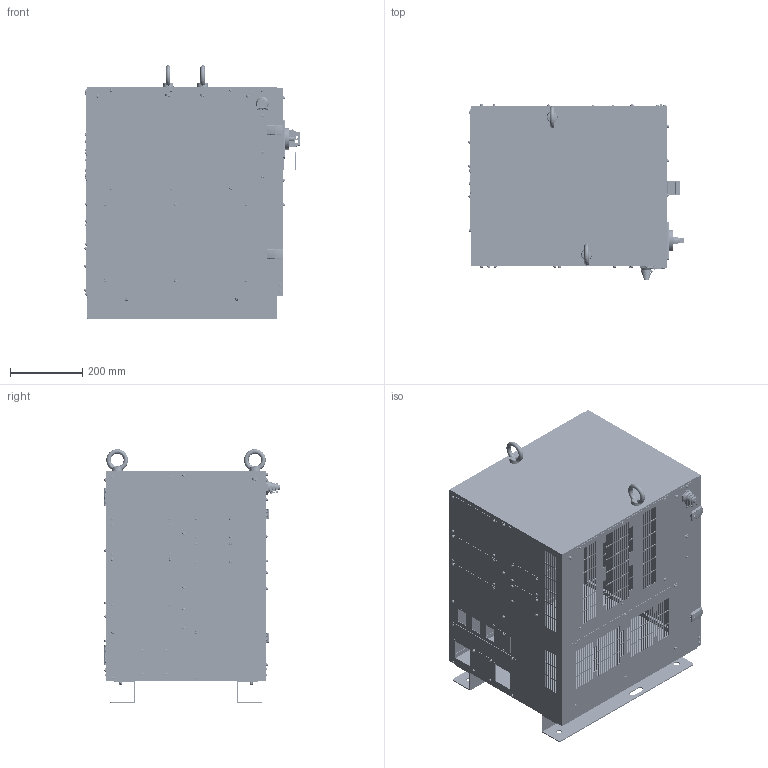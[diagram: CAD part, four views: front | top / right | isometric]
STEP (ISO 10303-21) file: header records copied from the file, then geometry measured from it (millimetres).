
FILE_DESCRIPTION(/* description */ (''),/* implementation_level */ '2;1');
FILE_NAME(/* name */ '\\semifile\請負業者殿サーバ\山中\製品_2018.08.07(外形用)\FD19-controller.stp',/* time_stamp */ '2019-08-26T11:09:31+09:00',/* author */ ('100494F'),/* organization */ (''),/* preprocessor_version */ 'ST-DEVELOPER v17',/* originating_system */ 'Autodesk Inventor 2018',/* authorisation */ '');
FILE_SCHEMA (('AUTOMOTIVE_DESIGN { 1 0 10303 214 3 1 1 }'));
Products named in the file (69): FD19-controller; 1; 1-1; 1_Botomside; 1_Leftside; 1_Rightside; 1_Backside; 1_Topside; 1_6_a; 1_6_a_1; M16-N; 2; 2_1; C-300-B-3-10-EMC; 4; 4_1; 5; 5_1; 6; 7; 8; 9; 10; 11; 12; 13; 15; L23400B15; NM6050001SC; 16; 17; 18; 19; 20; 21; 23; C-1083_ASM; SONE3D_1_ASM; C-1083_X_X_; C-1083_O_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
Assembly tree (188 placements, depth 5):
  FD19-controller
    1
      1-1
        1_Botomside
        1_Leftside
        1_Rightside
        1_Backside
        1_Topside
        1_6_a  x2
          1_6_a_1
          M16-N
      2
        2_1
        C-300-B-3-10-EMC
      4
        4_1
      5
        5_1
      6
      7
      8
      9
      10
      11
      12  x2
      13
      15  x2
        L23400B15
        NM6050001SC
      16
      17
      18
      19
      20  x7
      21
      23
      C-1083_ASM  x2
        SONE3D_1_ASM
          C-1083_X_X_
          C-1083_O_
          C-1083_J_O_
          C-1083_S_S_B_J_P
          C-1083_S_S_A_J_P
          C-1083-27
      C-1083-28  x2
      B-27-3_Q_WB  x2
      B-27-3_Q_WA  x2
      M4x8(P=4)  x83
      M3x6(P=4)  x8
      AS 1427 - M4 x 6(5) II  x8
      M8X15-ZM3C(P=3)  x4
        HXPP3-ST-M8-15-1_HXPP3-ST-M8-15
        HXPP3-ST-M8-15-2_HXPP3-ST-M8-15
        HXPP3-ST-M8-15-3_HXPP3-ST-M8-15
      M5x10(P=4)  x4
    BW9N0BA_Front_plate_ﾃﾞﾌｫﾙﾄ
    BW9N0BA_Catch_plate_ﾃﾞﾌｫﾙﾄ
    Screw_M4_L10_ﾃﾞﾌｫﾙﾄ  x4
    BW9N0BA 外部操作ハンドル（Ｎ形）
      BW9N0BA_Handle_Operation_Mechanism_ﾃﾞﾌｫﾙﾄ
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Bounding box: 595.6 x 486 x 699.89 mm (x, y, z)
Volume: 3502719.5 mm3; surface area: 4231641.4 mm2
Topology: 194 solids, 194 shells, 5254 faces, 14298 edges, 9705 vertices
Faces by surface type: plane 3311, cylinder 1301, cone 252, torus 164, bspline 116, sphere 110
Full cylindrical faces by diameter (mm): 2 x8, 2.3 x4, 2.4 x4, 2.459 x8, 2.5 x12, 3 x91, 3.2 x8, 3.242 x111, 3.3 x6, 3.571 x8, 4 x31, 4.134 x4, 4.18 x4, 4.4 x8, 4.5 x1, 4.98 x20, 5 x73, 5.1 x8, 5.5 x8, 5.54 x90, 6 x10, 6.44 x4, 6.667 x4, 7 x83, 7.63 x4, 8 x89, 8.5 x4, 9 x24, 10 x9, 10.989 x4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
Entity records: 134076 total; most frequent: CARTESIAN_POINT 33996, ORIENTED_EDGE 20038, DIRECTION 19591, EDGE_CURVE 10019, LINE 7501, VECTOR 7501, VERTEX_POINT 6721, AXIS2_PLACEMENT_3D 6045
